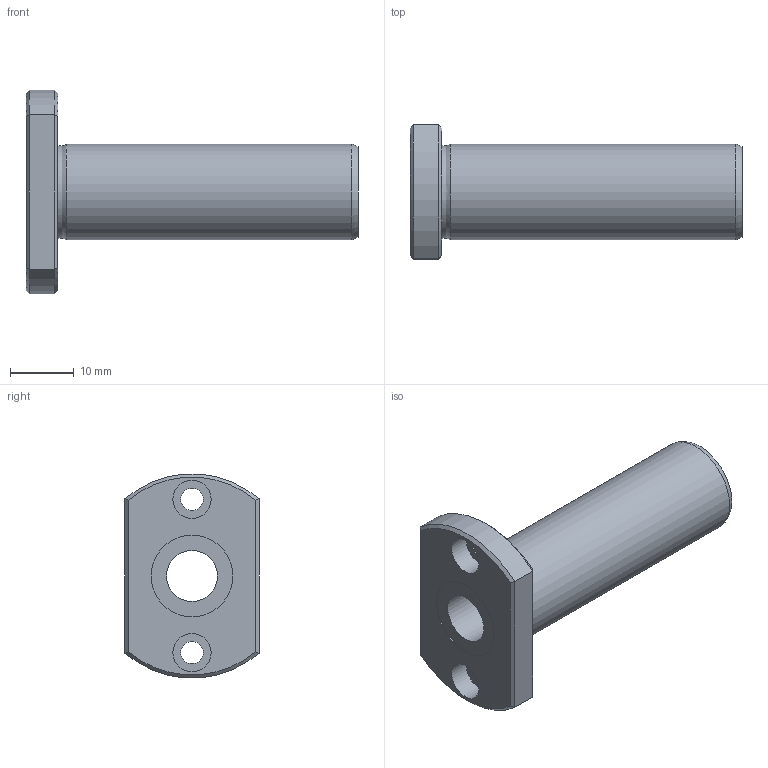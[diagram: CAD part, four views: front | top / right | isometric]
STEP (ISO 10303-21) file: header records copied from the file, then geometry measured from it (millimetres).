
FILE_DESCRIPTION((''),'2;1');
FILE_NAME('D:\製品 (図面)\カタログ用3D\メンテナンスフリー関連\STEP形式\LFDT-MF\LFDT8MF.stp','2010-06-01T15:49:42',('Tsuchiya'),(''),'Autodesk Inventor 10','Autodesk Inventor 10','');
FILE_SCHEMA(('AUTOMOTIVE_DESIGN { 1 0 10303 214 1 1 1 1 }'));
Length unit declared in the file: millimetre
Products named in the file (1): LFDT8MF
Bounding box: 52 x 21 x 31.9 mm (x, y, z)
Volume: 8515.2 mm3; surface area: 5195.2 mm2
Topology: 1 solids, 1 shells, 29 faces, 56 edges, 34 vertices
Faces by surface type: plane 13, cylinder 10, cone 4, torus 1, bspline 1
Full cylindrical faces by diameter (mm): 3.5 x2, 6 x2, 8 x1, 12.8 x2, 15 x1
Entity records: 787 total; most frequent: CARTESIAN_POINT 196, DIRECTION 122, ORIENTED_EDGE 92, AXIS2_PLACEMENT_3D 55, EDGE_LOOP 50, EDGE_CURVE 46, VERTEX_POINT 34, FACE_OUTER_BOUND 29
